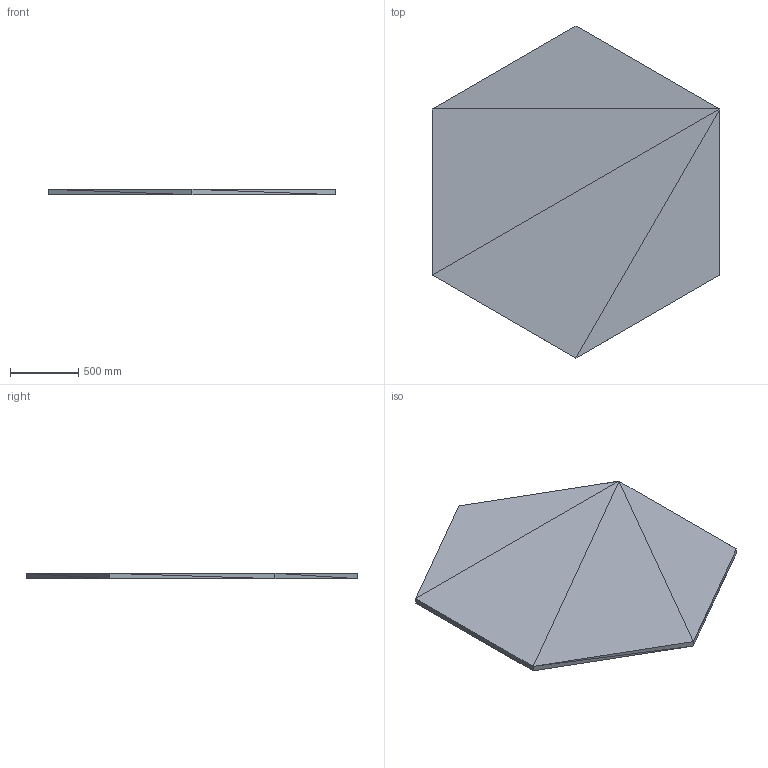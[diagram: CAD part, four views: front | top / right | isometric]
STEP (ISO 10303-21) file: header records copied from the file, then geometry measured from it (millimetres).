
FILE_DESCRIPTION(('ISINAC STEP AP214'),'2;1');
FILE_NAME('ISINAC_HEX.1220_40mm_ADHESIVO','2026-05-03T10:49:19',('ISINAC'),('www.isinac.com'),'ISINAC BIM Generator 1.0','','');
FILE_SCHEMA(('AUTOMOTIVE_DESIGN'));
Length unit declared in the file: millimetre
Products named in the file (1): ISINAC_HEX.1220_40mm_ADHESIVO
Bounding box: 2113.1 x 2440 x 40 mm (x, y, z)
Surface area: 8026753.3 mm2 (no closed solid volume)
Topology: 0 solids, 20 shells, 20 faces, 60 edges, 60 vertices
Faces by surface type: plane 20
Entity records: 233 total; most frequent: CARTESIAN_POINT 80, DIRECTION 40, POLY_LOOP 20, FACE_OUTER_BOUND 20, AXIS2_PLACEMENT_3D 20, PLANE 20, FACE_SURFACE 20, CLOSED_SHELL 1
